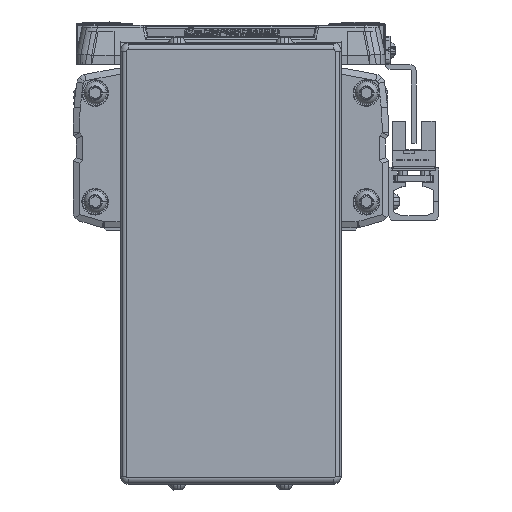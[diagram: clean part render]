
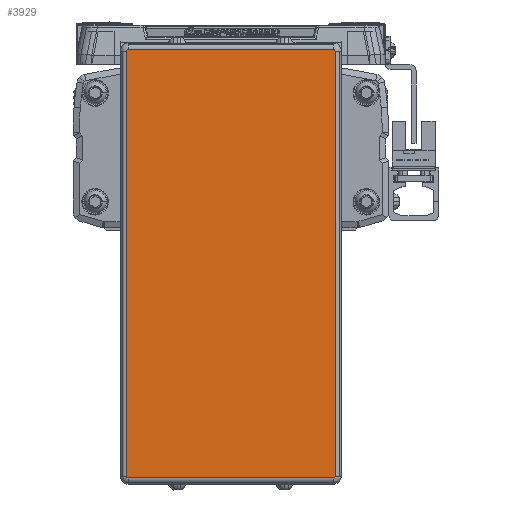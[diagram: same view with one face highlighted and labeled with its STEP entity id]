
A CAD part, left-side view. The second image highlights one B-rep face of the part: STEP entity #3929.
In plain terms, the highlighted planar face has unit normal (-1, 0, 0).
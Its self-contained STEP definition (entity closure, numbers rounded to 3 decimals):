
#3929=ADVANCED_FACE('',(#9852),#9853,.F.);
#9852=FACE_OUTER_BOUND('',#18510,.T.);
#9853=PLANE('',#18511);
#18510=EDGE_LOOP('',(#29252,#29253,#29254,#29255,#29256,#29257,#29258,#29259));
#18511=AXIS2_PLACEMENT_3D('',#29260,#29261,#29262);
#29252=ORIENTED_EDGE('',*,*,#51853,.T.);
#29253=ORIENTED_EDGE('',*,*,#51991,.T.);
#29254=ORIENTED_EDGE('',*,*,#51992,.T.);
#29255=ORIENTED_EDGE('',*,*,#51993,.T.);
#29256=ORIENTED_EDGE('',*,*,#51994,.T.);
#29257=ORIENTED_EDGE('',*,*,#51995,.T.);
#29258=ORIENTED_EDGE('',*,*,#51996,.T.);
#29259=ORIENTED_EDGE('',*,*,#51997,.T.);
#29260=CARTESIAN_POINT('',(-616.0,0.,-41.6));
#29261=DIRECTION('',(1.0,0.,0.));
#29262=DIRECTION('',(0.,0.,1.0));
#51853=EDGE_CURVE('',#62697,#62695,#62698,.T.);
#51991=EDGE_CURVE('',#62695,#62931,#62932,.T.);
#51992=EDGE_CURVE('',#62931,#62933,#62934,.T.);
#51993=EDGE_CURVE('',#62933,#62935,#62936,.T.);
#51994=EDGE_CURVE('',#62935,#62937,#62938,.T.);
#51995=EDGE_CURVE('',#62937,#62939,#62940,.T.);
#51996=EDGE_CURVE('',#62939,#62941,#62942,.T.);
#51997=EDGE_CURVE('',#62941,#62697,#62943,.T.);
#62695=VERTEX_POINT('',#77688);
#62697=VERTEX_POINT('',#77690);
#62698=LINE('',#77691,#77692);
#62931=VERTEX_POINT('',#78037);
#62932=CIRCLE('',#78038,0.5);
#62933=VERTEX_POINT('',#78039);
#62934=LINE('',#78040,#78041);
#62935=VERTEX_POINT('',#78042);
#62936=CIRCLE('',#78043,0.5);
#62937=VERTEX_POINT('',#78044);
#62938=LINE('',#78045,#78046);
#62939=VERTEX_POINT('',#78047);
#62940=CIRCLE('',#78048,0.5);
#62941=VERTEX_POINT('',#78049);
#62942=LINE('',#78050,#78051);
#62943=CIRCLE('',#78052,0.5);
#77688=CARTESIAN_POINT('',(-616.,-33.05,25.8));
#77690=CARTESIAN_POINT('',(-616.0,-33.05,-109.));
#77691=CARTESIAN_POINT('',(-616.,-33.05,-41.6));
#77692=VECTOR('',#94845,10.0);
#78037=CARTESIAN_POINT('',(-616.,-32.55,26.3));
#78038=AXIS2_PLACEMENT_3D('',#95036,#95037,#95038);
#78039=CARTESIAN_POINT('',(-616.,32.55,26.3));
#78040=CARTESIAN_POINT('',(-616.,0.,26.3));
#78041=VECTOR('',#95039,10.0);
#78042=CARTESIAN_POINT('',(-616.,33.05,25.8));
#78043=AXIS2_PLACEMENT_3D('',#95040,#95041,#95042);
#78044=CARTESIAN_POINT('',(-616.0,33.05,-109.));
#78045=CARTESIAN_POINT('',(-616.0,33.05,-41.6));
#78046=VECTOR('',#95043,10.0);
#78047=CARTESIAN_POINT('',(-616.0,32.55,-109.5));
#78048=AXIS2_PLACEMENT_3D('',#95044,#95045,#95046);
#78049=CARTESIAN_POINT('',(-616.0,-32.55,-109.5));
#78050=CARTESIAN_POINT('',(-616.0,0.,-109.5));
#78051=VECTOR('',#95047,10.0);
#78052=AXIS2_PLACEMENT_3D('',#95048,#95049,#95050);
#94845=DIRECTION('',(0.,0.,1.0));
#95036=CARTESIAN_POINT('',(-616.,-32.55,25.8));
#95037=DIRECTION('',(-1.0,0.,0.));
#95038=DIRECTION('',(0.,-0.707,0.707));
#95039=DIRECTION('',(0.,1.0,0.));
#95040=CARTESIAN_POINT('',(-616.,32.55,25.8));
#95041=DIRECTION('',(-1.0,0.,0.));
#95042=DIRECTION('',(0.,0.707,0.707));
#95043=DIRECTION('',(0.,0.,-1.0));
#95044=CARTESIAN_POINT('',(-616.0,32.55,-109.));
#95045=DIRECTION('',(-1.0,0.,0.));
#95046=DIRECTION('',(0.,0.707,-0.707));
#95047=DIRECTION('',(0.,-1.0,0.));
#95048=CARTESIAN_POINT('',(-616.0,-32.55,-109.));
#95049=DIRECTION('',(-1.0,0.,0.));
#95050=DIRECTION('',(0.,-0.707,-0.707));
